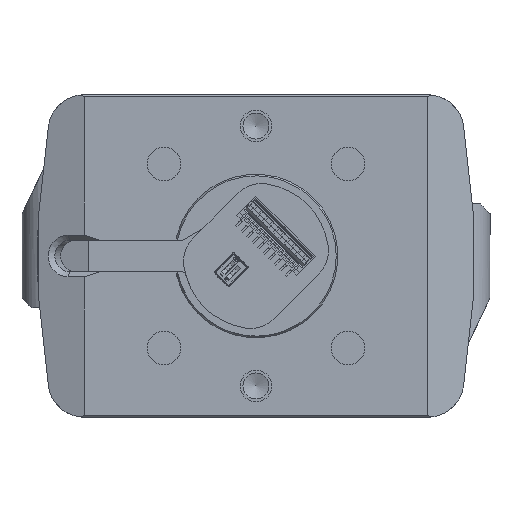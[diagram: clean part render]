
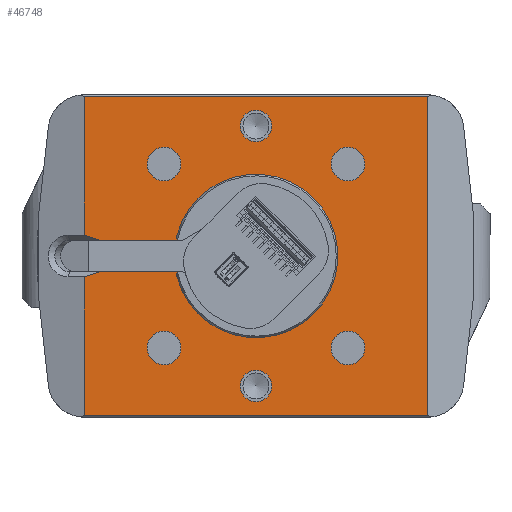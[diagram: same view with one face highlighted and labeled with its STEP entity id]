
A CAD part, front view. The second image highlights one B-rep face of the part: STEP entity #46748.
In plain terms, the highlighted planar face has unit normal (0, -1, 0).
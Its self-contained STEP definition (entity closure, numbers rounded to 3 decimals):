
#286=FACE_BOUND('',#7251,.T.);
#287=FACE_BOUND('',#7252,.T.);
#288=FACE_BOUND('',#7253,.T.);
#289=FACE_BOUND('',#7254,.T.);
#290=FACE_BOUND('',#7255,.T.);
#291=FACE_BOUND('',#7256,.T.);
#1355=CIRCLE('',#49320,3.25);
#1361=CIRCLE('',#49329,3.25);
#1367=CIRCLE('',#49338,3.25);
#1373=CIRCLE('',#49347,3.25);
#1387=CIRCLE('',#49369,3.019);
#1388=CIRCLE('',#49370,3.019);
#1394=CIRCLE('',#49380,3.019);
#1395=CIRCLE('',#49381,3.019);
#1403=CIRCLE('',#49407,15.724);
#2433=PLANE('',#49438);
#4691=FACE_OUTER_BOUND('',#7250,.T.);
#7250=EDGE_LOOP('',(#37621,#37622,#37623,#37624,#37625,#37626,#37627,#37628,
#37629,#37630,#37631,#37632,#37633,#37634));
#7251=EDGE_LOOP('',(#37635,#37636));
#7252=EDGE_LOOP('',(#37637,#37638));
#7253=EDGE_LOOP('',(#37639));
#7254=EDGE_LOOP('',(#37640));
#7255=EDGE_LOOP('',(#37641));
#7256=EDGE_LOOP('',(#37642));
#10352=LINE('',#90210,#14715);
#10355=LINE('',#90221,#14718);
#10569=LINE('',#90834,#14932);
#10573=LINE('',#90841,#14936);
#10578=LINE('',#90851,#14941);
#10581=LINE('',#90861,#14944);
#10585=LINE('',#90874,#14948);
#10587=LINE('',#90882,#14950);
#10590=LINE('',#90894,#14953);
#10606=LINE('',#90953,#14969);
#10608=LINE('',#90957,#14971);
#10610=LINE('',#90960,#14973);
#10611=LINE('',#90961,#14974);
#14715=VECTOR('',#55445,10.);
#14718=VECTOR('',#55454,10.);
#14932=VECTOR('',#56048,10.);
#14936=VECTOR('',#56056,10.);
#14941=VECTOR('',#56063,10.);
#14944=VECTOR('',#56068,10.);
#14948=VECTOR('',#56074,10.);
#14950=VECTOR('',#56078,10.);
#14953=VECTOR('',#56089,10.);
#14969=VECTOR('',#56161,10.);
#14971=VECTOR('',#56165,10.);
#14973=VECTOR('',#56169,10.);
#14974=VECTOR('',#56170,10.);
#20760=VERTEX_POINT('',#90203);
#20762=VERTEX_POINT('',#90207);
#20763=VERTEX_POINT('',#90209);
#20768=VERTEX_POINT('',#90219);
#20917=VERTEX_POINT('',#90665);
#20923=VERTEX_POINT('',#90682);
#20929=VERTEX_POINT('',#90699);
#20935=VERTEX_POINT('',#90716);
#20953=VERTEX_POINT('',#90766);
#20954=VERTEX_POINT('',#90767);
#20961=VERTEX_POINT('',#90788);
#20962=VERTEX_POINT('',#90789);
#20977=VERTEX_POINT('',#90833);
#20978=VERTEX_POINT('',#90840);
#20982=VERTEX_POINT('',#90849);
#20985=VERTEX_POINT('',#90859);
#20989=VERTEX_POINT('',#90871);
#20990=VERTEX_POINT('',#90873);
#20992=VERTEX_POINT('',#90881);
#20994=VERTEX_POINT('',#90887);
#21009=VERTEX_POINT('',#90952);
#21010=VERTEX_POINT('',#90956);
#26451=EDGE_CURVE('',#20763,#20762,#10352,.T.);
#26457=EDGE_CURVE('',#20760,#20768,#10355,.T.);
#26674=EDGE_CURVE('',#20917,#20917,#1355,.T.);
#26682=EDGE_CURVE('',#20923,#20923,#1361,.T.);
#26690=EDGE_CURVE('',#20929,#20929,#1367,.T.);
#26698=EDGE_CURVE('',#20935,#20935,#1373,.T.);
#26721=EDGE_CURVE('',#20953,#20954,#1387,.T.);
#26722=EDGE_CURVE('',#20954,#20953,#1388,.T.);
#26731=EDGE_CURVE('',#20961,#20962,#1394,.T.);
#26732=EDGE_CURVE('',#20962,#20961,#1395,.T.);
#26752=EDGE_CURVE('',#20760,#20977,#10569,.T.);
#26756=EDGE_CURVE('',#20978,#20762,#10573,.T.);
#26761=EDGE_CURVE('',#20978,#20982,#10578,.T.);
#26765=EDGE_CURVE('',#20985,#20982,#10581,.F.);
#26770=EDGE_CURVE('',#20989,#20990,#10585,.F.);
#26773=EDGE_CURVE('',#20992,#20990,#10587,.T.);
#26776=EDGE_CURVE('',#20994,#20992,#1403,.T.);
#26779=EDGE_CURVE('',#20985,#20994,#10590,.T.);
#26808=EDGE_CURVE('',#20763,#21009,#10606,.T.);
#26810=EDGE_CURVE('',#21010,#21009,#10608,.T.);
#26812=EDGE_CURVE('',#21010,#20768,#10610,.T.);
#26813=EDGE_CURVE('',#20989,#20977,#10611,.T.);
#37621=ORIENTED_EDGE('',*,*,#26457,.T.);
#37622=ORIENTED_EDGE('',*,*,#26812,.F.);
#37623=ORIENTED_EDGE('',*,*,#26810,.T.);
#37624=ORIENTED_EDGE('',*,*,#26808,.F.);
#37625=ORIENTED_EDGE('',*,*,#26451,.T.);
#37626=ORIENTED_EDGE('',*,*,#26756,.F.);
#37627=ORIENTED_EDGE('',*,*,#26761,.T.);
#37628=ORIENTED_EDGE('',*,*,#26765,.F.);
#37629=ORIENTED_EDGE('',*,*,#26779,.T.);
#37630=ORIENTED_EDGE('',*,*,#26776,.T.);
#37631=ORIENTED_EDGE('',*,*,#26773,.T.);
#37632=ORIENTED_EDGE('',*,*,#26770,.F.);
#37633=ORIENTED_EDGE('',*,*,#26813,.T.);
#37634=ORIENTED_EDGE('',*,*,#26752,.F.);
#37635=ORIENTED_EDGE('',*,*,#26731,.T.);
#37636=ORIENTED_EDGE('',*,*,#26732,.T.);
#37637=ORIENTED_EDGE('',*,*,#26721,.T.);
#37638=ORIENTED_EDGE('',*,*,#26722,.T.);
#37639=ORIENTED_EDGE('',*,*,#26698,.T.);
#37640=ORIENTED_EDGE('',*,*,#26690,.T.);
#37641=ORIENTED_EDGE('',*,*,#26682,.T.);
#37642=ORIENTED_EDGE('',*,*,#26674,.T.);
#46748=ADVANCED_FACE('',(#4691,#286,#287,#288,#289,#290,#291),#2433,.F.);
#49320=AXIS2_PLACEMENT_3D('',#90667,#55862,#55863);
#49329=AXIS2_PLACEMENT_3D('',#90684,#55882,#55883);
#49338=AXIS2_PLACEMENT_3D('',#90701,#55902,#55903);
#49347=AXIS2_PLACEMENT_3D('',#90718,#55922,#55923);
#49369=AXIS2_PLACEMENT_3D('',#90768,#55975,#55976);
#49370=AXIS2_PLACEMENT_3D('',#90769,#55977,#55978);
#49380=AXIS2_PLACEMENT_3D('',#90790,#56000,#56001);
#49381=AXIS2_PLACEMENT_3D('',#90791,#56002,#56003);
#49407=AXIS2_PLACEMENT_3D('',#90888,#56084,#56085);
#49438=AXIS2_PLACEMENT_3D('',#90959,#56167,#56168);
#55445=DIRECTION('',(0.,0.,-1.));
#55454=DIRECTION('',(0.,0.,-1.));
#55862=DIRECTION('center_axis',(0.,1.,0.));
#55863=DIRECTION('ref_axis',(1.,0.,0.));
#55882=DIRECTION('center_axis',(0.,1.,0.));
#55883=DIRECTION('ref_axis',(1.,0.,0.));
#55902=DIRECTION('center_axis',(0.,1.,0.));
#55903=DIRECTION('ref_axis',(1.,0.,0.));
#55922=DIRECTION('center_axis',(0.,1.,0.));
#55923=DIRECTION('ref_axis',(1.,0.,0.));
#55975=DIRECTION('center_axis',(0.,1.,0.));
#55976=DIRECTION('ref_axis',(1.,0.,0.));
#55977=DIRECTION('center_axis',(0.,1.,0.));
#55978=DIRECTION('ref_axis',(1.,0.,0.));
#56000=DIRECTION('center_axis',(0.,1.,0.));
#56001=DIRECTION('ref_axis',(1.,0.,0.));
#56002=DIRECTION('center_axis',(0.,1.,0.));
#56003=DIRECTION('ref_axis',(1.,0.,0.));
#56048=DIRECTION('',(0.953,0.,0.302));
#56056=DIRECTION('',(-0.953,0.,0.302));
#56063=DIRECTION('',(1.,0.,0.));
#56068=DIRECTION('',(-0.707,0.,0.707));
#56074=DIRECTION('',(0.707,0.,0.707));
#56078=DIRECTION('',(0.,0.,1.));
#56084=DIRECTION('center_axis',(0.,1.,0.));
#56085=DIRECTION('ref_axis',(0.967,0.,0.254));
#56089=DIRECTION('',(0.,0.,1.));
#56161=DIRECTION('',(1.,0.,0.));
#56165=DIRECTION('',(0.,0.,1.));
#56167=DIRECTION('center_axis',(0.,1.,0.));
#56168=DIRECTION('ref_axis',(0.,0.,1.));
#56169=DIRECTION('',(-1.,0.,0.));
#56170=DIRECTION('',(-1.,0.,0.));
#90203=CARTESIAN_POINT('',(-33.,0.,-4.));
#90207=CARTESIAN_POINT('',(-33.,0.,4.));
#90209=CARTESIAN_POINT('',(-33.,0.,30.7));
#90210=CARTESIAN_POINT('',(-33.,0.,0.));
#90219=CARTESIAN_POINT('',(-33.,0.,-30.7));
#90221=CARTESIAN_POINT('',(-33.,0.,0.));
#90665=CARTESIAN_POINT('',(14.428,0.,17.678));
#90667=CARTESIAN_POINT('Origin',(17.678,0.,17.678));
#90682=CARTESIAN_POINT('',(-20.928,0.,-17.678));
#90684=CARTESIAN_POINT('Origin',(-17.678,0.,-17.678));
#90699=CARTESIAN_POINT('',(14.428,0.,-17.678));
#90701=CARTESIAN_POINT('Origin',(17.678,0.,-17.678));
#90716=CARTESIAN_POINT('',(-20.928,0.,17.678));
#90718=CARTESIAN_POINT('Origin',(-17.678,0.,17.678));
#90766=CARTESIAN_POINT('',(3.019,0.,25.));
#90767=CARTESIAN_POINT('',(-3.019,0.,25.));
#90768=CARTESIAN_POINT('Origin',(0.,0.,25.));
#90769=CARTESIAN_POINT('Origin',(0.,0.,25.));
#90788=CARTESIAN_POINT('',(3.019,0.,-25.));
#90789=CARTESIAN_POINT('',(-3.019,0.,-25.));
#90790=CARTESIAN_POINT('Origin',(0.,0.,-25.));
#90791=CARTESIAN_POINT('Origin',(0.,0.,-25.));
#90833=CARTESIAN_POINT('',(-29.838,0.,-3.));
#90834=CARTESIAN_POINT('',(-17.69,0.,0.841));
#90840=CARTESIAN_POINT('',(-29.838,0.,3.));
#90841=CARTESIAN_POINT('',(-10.531,0.,-3.105));
#90849=CARTESIAN_POINT('',(-14.907,0.,3.));
#90851=CARTESIAN_POINT('',(0.,0.,3.));
#90859=CARTESIAN_POINT('',(-15.207,0.,3.3));
#90861=CARTESIAN_POINT('',(-10.505,0.,-1.402));
#90871=CARTESIAN_POINT('',(-14.907,0.,-3.));
#90873=CARTESIAN_POINT('',(-15.207,0.,-3.3));
#90874=CARTESIAN_POINT('',(-10.505,0.,1.402));
#90881=CARTESIAN_POINT('',(-15.207,0.,-4.));
#90882=CARTESIAN_POINT('',(-15.207,0.,2.));
#90887=CARTESIAN_POINT('',(-15.207,0.,4.));
#90888=CARTESIAN_POINT('Origin',(0.,0.,0.));
#90894=CARTESIAN_POINT('',(-15.207,0.,2.));
#90952=CARTESIAN_POINT('',(33.,0.,30.7));
#90953=CARTESIAN_POINT('',(16.5,0.,30.7));
#90956=CARTESIAN_POINT('',(33.,0.,-30.7));
#90957=CARTESIAN_POINT('',(33.,0.,0.));
#90959=CARTESIAN_POINT('Origin',(0.,0.,0.));
#90960=CARTESIAN_POINT('',(-16.5,0.,-30.7));
#90961=CARTESIAN_POINT('',(-17.5,0.,-3.));
